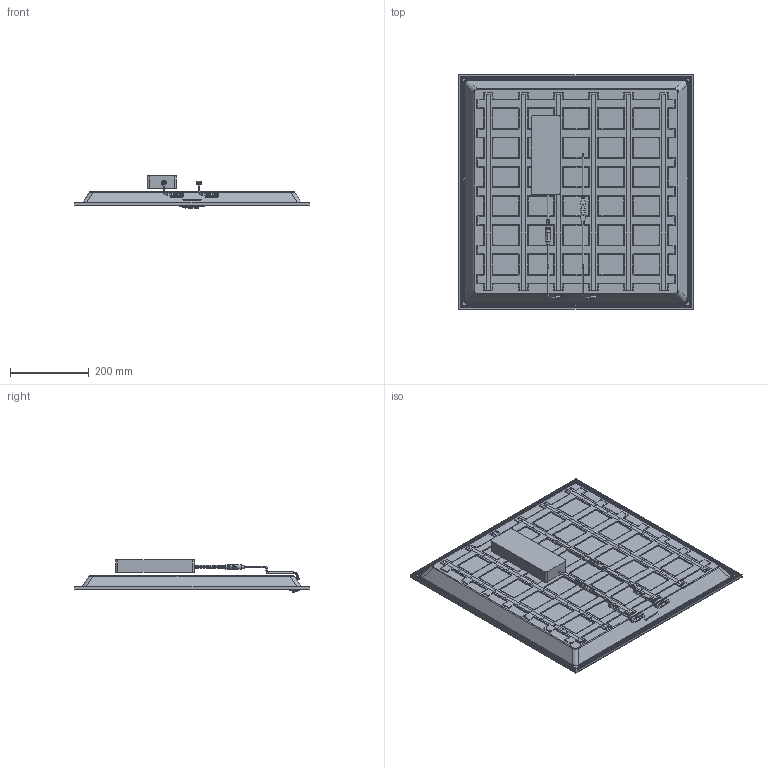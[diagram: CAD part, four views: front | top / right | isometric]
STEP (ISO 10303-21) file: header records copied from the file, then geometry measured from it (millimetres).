
FILE_DESCRIPTION(/* description */ (''),/* implementation_level */ '2;1');
FILE_NAME(/* name */ '929003433506_sh10_20240112.stp',/* time_stamp */ '2024-01-12T17:08:09+08:00',/* author */ (''),/* organization */ (''),/* preprocessor_version */ 'ST-DEVELOPER v19.4',/* originating_system */ 'SIEMENS PLM Software NX2212.8901',/* authorisation */ '');
FILE_SCHEMA (('AUTOMOTIVE_DESIGN { 1 0 10303 214 3 1 1 1 }'));
Products named in the file (1): 整灯_欧洲直下595感应款_
G1-20240111_step_objects
Bounding box: 595 x 595 x 81.8 mm (x, y, z)
Volume: 1259048.4 mm3; surface area: 2454402.4 mm2
Topology: 50 solids, 55 shells, 5444 faces, 13870 edges, 8820 vertices
Faces by surface type: plane 2613, cylinder 2151, torus 261, bspline 176, cone 162, sphere 81
Entity records: 196763 total; most frequent: CARTESIAN_POINT 65390, ORIENTED_EDGE 27670, DIRECTION 24189, EDGE_CURVE 13835, VERTEX_POINT 8818, AXIS2_PLACEMENT_3D 8257, LINE 7675, VECTOR 7675
